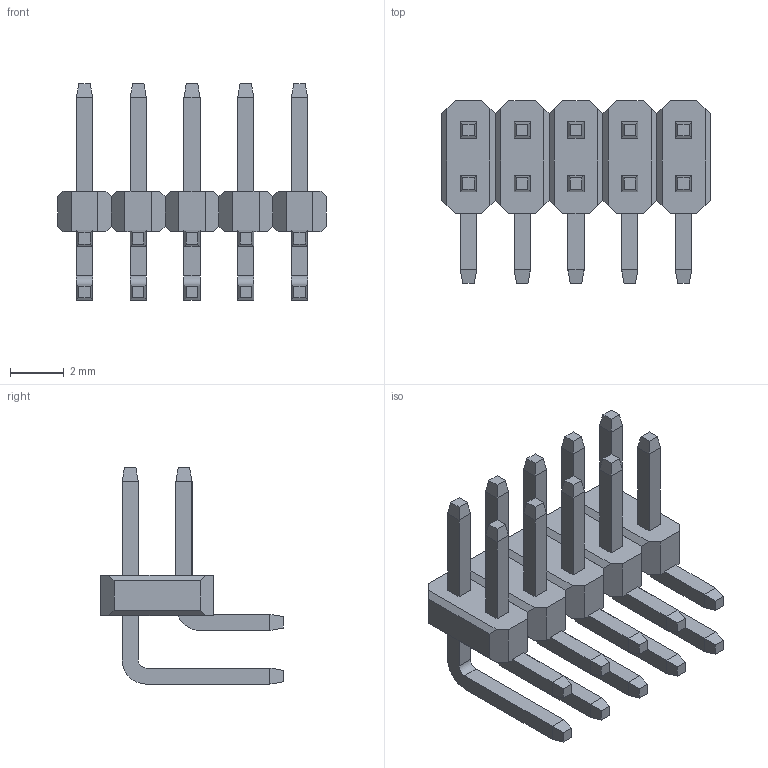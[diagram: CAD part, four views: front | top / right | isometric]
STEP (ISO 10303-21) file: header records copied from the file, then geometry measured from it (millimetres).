
FILE_DESCRIPTION (( 'STEP AP214' ), '1' );
FILE_NAME ('PLD2-10R.STEP', '2011-05-17T11:08:44', ( 'vpeshkov' ), ( 'licard' ), 'SwSTEP 2.0', 'SolidWorks 2009', '' );
FILE_SCHEMA (( 'AUTOMOTIVE_DESIGN' ));
Length unit declared in the file: millimetre
Products named in the file (1): PLD2-10R
Bounding box: 10 x 6.8 x 8.05 mm (x, y, z)
Volume: 91.7 mm3; surface area: 347.8 mm2
Topology: 1 solids, 1 shells, 267 faces, 654 edges, 404 vertices
Faces by surface type: plane 252, cylinder 15
Entity records: 9879 total; most frequent: CARTESIAN_POINT 1326, ORIENTED_EDGE 1308, DIRECTION 1220, EDGE_CURVE 654, VECTOR 624, LINE 624, VERTEX_POINT 404, AXIS2_PLACEMENT_3D 298
